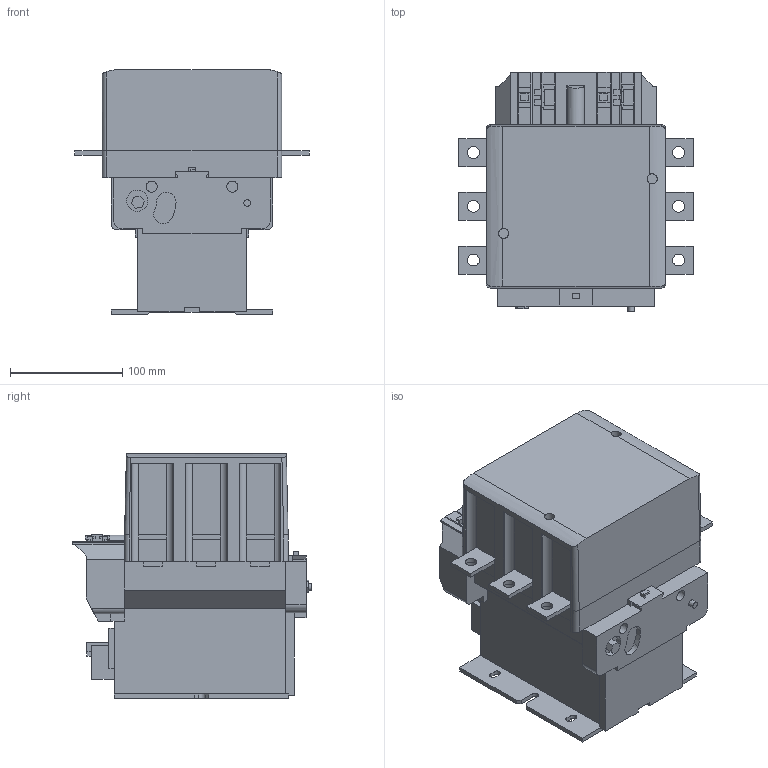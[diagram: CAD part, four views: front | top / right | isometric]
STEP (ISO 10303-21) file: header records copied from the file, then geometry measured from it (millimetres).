
FILE_DESCRIPTION(/* description */ (''),/* implementation_level */ '2;1');
FILE_NAME(/* name */ 'ck3-330',/* time_stamp */ '2022-08-31T17:55:22+08:00',/* author */ (''),/* organization */ (''),/* preprocessor_version */ 'ST-DEVELOPER v14',/* originating_system */ 'SIEMENS PLM Software NX 8.0',/* authorisation */ '');
FILE_SCHEMA (('AP203_CONFIGURATION_CONTROLLED_3D_DESIGN_OF_MECHANICAL_PARTS_AND_ASSEMBLIES_MIM_LF { 1 0 10303 403 2 1 2}'));
Length unit declared in the file: millimetre
Products named in the file (1): Admi1E38C561gkk8
Bounding box: 209 x 213.6 x 218.5 mm (x, y, z)
Volume: 4445454.6 mm3; surface area: 237338.8 mm2
Topology: 1 solids, 1 shells, 463 faces, 1294 edges, 847 vertices
Faces by surface type: plane 399, cylinder 64
Full cylindrical faces by diameter (mm): 6 x1, 9 x2, 10 x4, 10.5 x6, 19 x2
Entity records: 14614 total; most frequent: CARTESIAN_POINT 2610, ORIENTED_EDGE 2540, DIRECTION 2312, EDGE_CURVE 1270, LINE 1144, VECTOR 1144, VERTEX_POINT 838, AXIS2_PLACEMENT_3D 584
